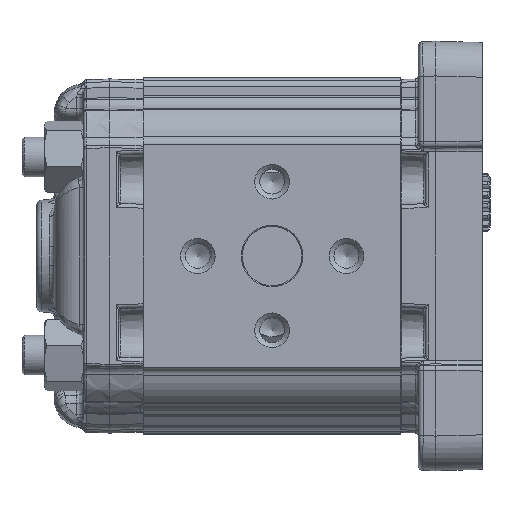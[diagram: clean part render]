
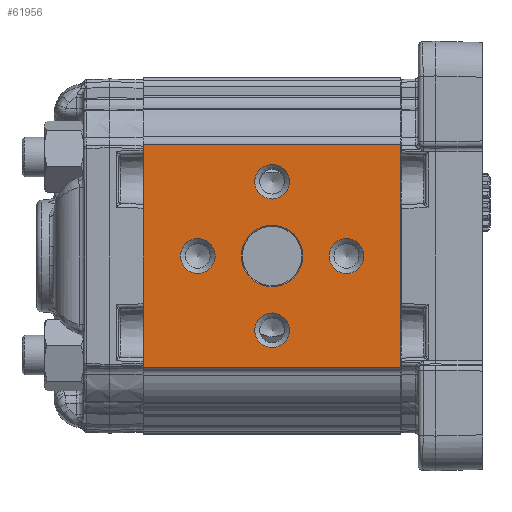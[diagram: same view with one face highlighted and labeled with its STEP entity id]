
A CAD part, left-side view. The second image highlights one B-rep face of the part: STEP entity #61956.
In plain terms, the highlighted planar face has unit normal (-1, 0, 0) as drawn and (1, 0, 0) by its records, which use the part's own axes.
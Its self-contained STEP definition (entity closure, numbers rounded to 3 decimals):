
#3548=LINE('',#98384,#5642);
#3550=LINE('',#98413,#5644);
#3575=LINE('',#98501,#5669);
#3576=LINE('',#98503,#5670);
#5642=VECTOR('',#74212,1000.);
#5644=VECTOR('',#74240,1000.);
#5669=VECTOR('',#74333,1000.);
#5670=VECTOR('',#74336,1000.);
#13983=ORIENTED_EDGE('',*,*,#24319,.T.);
#13984=ORIENTED_EDGE('',*,*,#24320,.T.);
#13985=ORIENTED_EDGE('',*,*,#24321,.T.);
#13986=ORIENTED_EDGE('',*,*,#24322,.T.);
#13987=ORIENTED_EDGE('',*,*,#24323,.T.);
#13988=ORIENTED_EDGE('',*,*,#24296,.T.);
#13989=ORIENTED_EDGE('',*,*,#24248,.T.);
#13990=ORIENTED_EDGE('',*,*,#24297,.T.);
#13991=ORIENTED_EDGE('',*,*,#24234,.F.);
#24234=EDGE_CURVE('',#29753,#29754,#3548,.T.);
#24248=EDGE_CURVE('',#29768,#29767,#3550,.T.);
#24296=EDGE_CURVE('',#29753,#29768,#3575,.T.);
#24297=EDGE_CURVE('',#29767,#29754,#3576,.F.);
#24319=EDGE_CURVE('',#29810,#29810,#33250,.F.);
#24320=EDGE_CURVE('',#29811,#29811,#33251,.F.);
#24321=EDGE_CURVE('',#29812,#29812,#33252,.F.);
#24322=EDGE_CURVE('',#29813,#29813,#33253,.F.);
#24323=EDGE_CURVE('',#29814,#29814,#33254,.F.);
#29753=VERTEX_POINT('',#98383);
#29754=VERTEX_POINT('',#98385);
#29767=VERTEX_POINT('',#98412);
#29768=VERTEX_POINT('',#98414);
#29810=VERTEX_POINT('',#98633);
#29811=VERTEX_POINT('',#98635);
#29812=VERTEX_POINT('',#98637);
#29813=VERTEX_POINT('',#98639);
#29814=VERTEX_POINT('',#98641);
#33250=CIRCLE('',#66013,6.2);
#33251=CIRCLE('',#66014,3.5);
#33252=CIRCLE('',#66015,3.5);
#33253=CIRCLE('',#66016,3.5);
#33254=CIRCLE('',#66017,3.5);
#35878=EDGE_LOOP('',(#13983));
#35879=EDGE_LOOP('',(#13984));
#35880=EDGE_LOOP('',(#13985));
#35881=EDGE_LOOP('',(#13986));
#35882=EDGE_LOOP('',(#13987));
#35883=EDGE_LOOP('',(#13988,#13989,#13990,#13991));
#39052=FACE_BOUND('',#35878,.T.);
#39053=FACE_BOUND('',#35879,.T.);
#39054=FACE_BOUND('',#35880,.T.);
#39055=FACE_BOUND('',#35881,.T.);
#39056=FACE_BOUND('',#35882,.T.);
#39057=FACE_BOUND('',#35883,.T.);
#41076=PLANE('',#66012);
#61956=ADVANCED_FACE('',(#39052,#39053,#39054,#39055,#39056,#39057),#41076,
 .T.);
#66012=AXIS2_PLACEMENT_3D('',#98631,#74385,#74386);
#66013=AXIS2_PLACEMENT_3D('',#98632,#74387,#74388);
#66014=AXIS2_PLACEMENT_3D('',#98634,#74389,#74390);
#66015=AXIS2_PLACEMENT_3D('',#98636,#74391,#74392);
#66016=AXIS2_PLACEMENT_3D('',#98638,#74393,#74394);
#66017=AXIS2_PLACEMENT_3D('',#98640,#74395,#74396);
#74212=DIRECTION('',(0.,0.,-1.));
#74240=DIRECTION('',(0.,0.,-1.));
#74333=DIRECTION('',(0.,-1.,0.));
#74336=DIRECTION('',(0.,-1.,0.));
#74385=DIRECTION('',(1.,0.,0.));
#74386=DIRECTION('',(0.,0.,-1.));
#74387=DIRECTION('',(1.,0.,0.));
#74388=DIRECTION('',(0.,0.,-1.));
#74389=DIRECTION('',(1.,0.,0.));
#74390=DIRECTION('',(0.,0.,-1.));
#74391=DIRECTION('',(1.,0.,0.));
#74392=DIRECTION('',(0.,0.,-1.));
#74393=DIRECTION('',(1.,0.,0.));
#74394=DIRECTION('',(0.,0.,-1.));
#74395=DIRECTION('',(1.,0.,0.));
#74396=DIRECTION('',(0.,0.,-1.));
#98383=CARTESIAN_POINT('',(33.,52.,22.5));
#98384=CARTESIAN_POINT('',(33.,52.,-21.711));
#98385=CARTESIAN_POINT('',(33.,52.,-22.5));
#98412=CARTESIAN_POINT('',(33.,0.,-22.5));
#98413=CARTESIAN_POINT('',(33.,0.,-21.711));
#98414=CARTESIAN_POINT('',(33.,0.,22.5));
#98501=CARTESIAN_POINT('',(33.,52.,22.5));
#98503=CARTESIAN_POINT('',(33.,52.,-22.5));
#98631=CARTESIAN_POINT('',(33.,128.714,-45.494));
#98632=CARTESIAN_POINT('',(33.,26.,0.));
#98633=CARTESIAN_POINT('',(33.,26.,-6.2));
#98634=CARTESIAN_POINT('',(33.,26.,-15.));
#98635=CARTESIAN_POINT('',(33.,26.,-18.5));
#98636=CARTESIAN_POINT('',(33.,41.,0.));
#98637=CARTESIAN_POINT('',(33.,41.,-3.5));
#98638=CARTESIAN_POINT('',(33.,26.,15.));
#98639=CARTESIAN_POINT('',(33.,26.,11.5));
#98640=CARTESIAN_POINT('',(33.,11.,0.));
#98641=CARTESIAN_POINT('',(33.,11.,-3.5));
